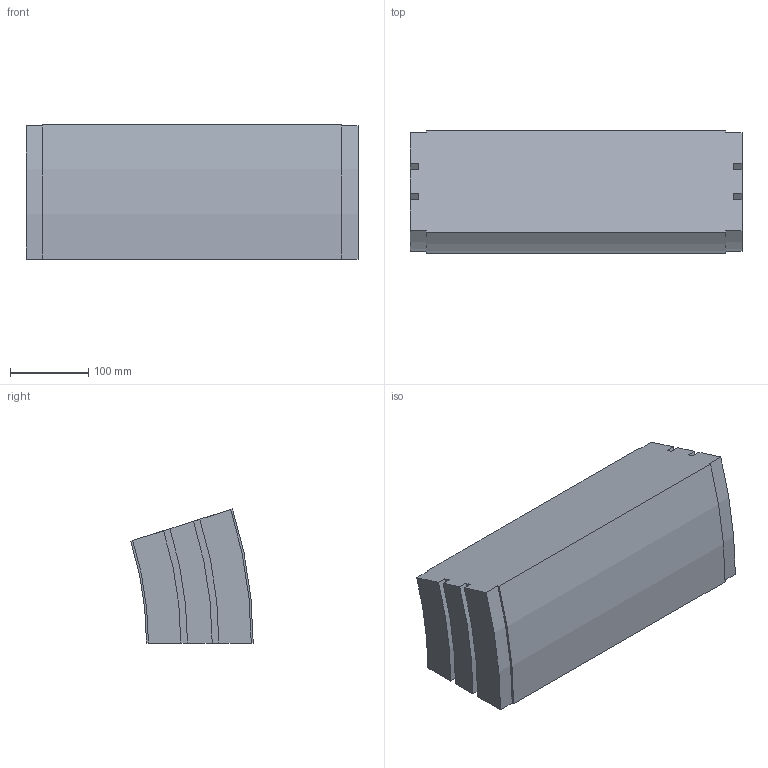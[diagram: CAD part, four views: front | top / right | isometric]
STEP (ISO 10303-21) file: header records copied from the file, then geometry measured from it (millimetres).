
FILE_DESCRIPTION (( 'STEP AP214' ), '1' );
FILE_NAME ('02.150V17.420.N FS-350-MTC-150 Bocht verticaal 17,5°.STEP', '2013-03-29T12:30:28', ( 'Gebruiker' ), ( '' ), 'SwSTEP 2.0', 'SolidWorks 2012', '' );
FILE_SCHEMA (( 'AUTOMOTIVE_DESIGN' ));
Length unit declared in the file: millimetre
Products named in the file (1): 02.150V17.420.N FS-350-MTC-150 Bocht verticaal 17,5°
Bounding box: 423 x 155.99 x 170.8 mm (x, y, z)
Volume: 8696277.5 mm3; surface area: 298063.9 mm2
Topology: 1 solids, 1 shells, 30 faces, 84 edges, 56 vertices
Faces by surface type: plane 16, cylinder 14
Entity records: 1010 total; most frequent: DIRECTION 174, CARTESIAN_POINT 171, ORIENTED_EDGE 168, EDGE_CURVE 84, AXIS2_PLACEMENT_3D 59, VECTOR 56, LINE 56, VERTEX_POINT 56
